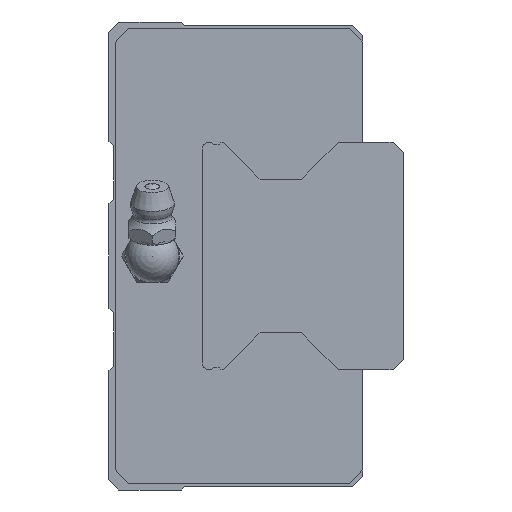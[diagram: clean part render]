
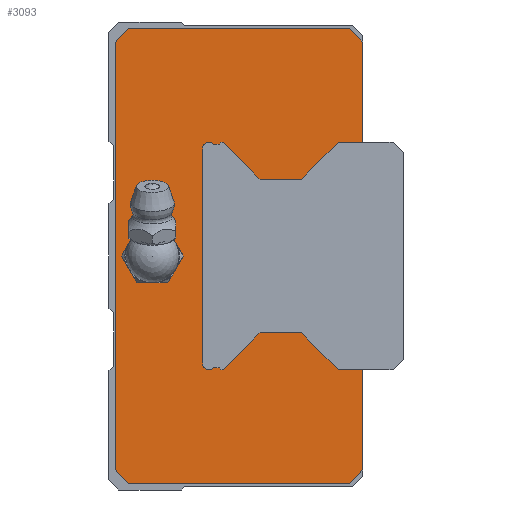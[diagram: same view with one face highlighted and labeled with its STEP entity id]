
A CAD part, left-side view. The second image highlights one B-rep face of the part: STEP entity #3093.
In plain terms, the highlighted planar face has unit normal (-1, 0, 0).
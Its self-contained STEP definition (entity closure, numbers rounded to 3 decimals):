
#167=CIRCLE('',#3355,3.);
#168=CIRCLE('',#3356,1.);
#169=CIRCLE('',#3357,1.);
#534=ORIENTED_EDGE('',*,*,#1246,.T.);
#535=ORIENTED_EDGE('',*,*,#1247,.T.);
#536=ORIENTED_EDGE('',*,*,#1239,.F.);
#537=ORIENTED_EDGE('',*,*,#1211,.F.);
#538=ORIENTED_EDGE('',*,*,#1207,.F.);
#539=ORIENTED_EDGE('',*,*,#1199,.F.);
#540=ORIENTED_EDGE('',*,*,#1231,.F.);
#541=ORIENTED_EDGE('',*,*,#1184,.F.);
#542=ORIENTED_EDGE('',*,*,#1222,.F.);
#543=ORIENTED_EDGE('',*,*,#1219,.F.);
#544=ORIENTED_EDGE('',*,*,#1241,.F.);
#545=ORIENTED_EDGE('',*,*,#1248,.T.);
#546=ORIENTED_EDGE('',*,*,#1249,.T.);
#547=ORIENTED_EDGE('',*,*,#1250,.T.);
#548=ORIENTED_EDGE('',*,*,#1251,.T.);
#549=ORIENTED_EDGE('',*,*,#1252,.T.);
#550=ORIENTED_EDGE('',*,*,#1253,.T.);
#551=ORIENTED_EDGE('',*,*,#1254,.T.);
#552=ORIENTED_EDGE('',*,*,#1255,.T.);
#553=ORIENTED_EDGE('',*,*,#1256,.T.);
#554=ORIENTED_EDGE('',*,*,#1257,.T.);
#555=ORIENTED_EDGE('',*,*,#1258,.T.);
#556=ORIENTED_EDGE('',*,*,#1259,.T.);
#557=ORIENTED_EDGE('',*,*,#1260,.T.);
#558=ORIENTED_EDGE('',*,*,#1261,.T.);
#559=ORIENTED_EDGE('',*,*,#1262,.T.);
#560=ORIENTED_EDGE('',*,*,#1263,.T.);
#1184=EDGE_CURVE('',#1570,#1571,#1869,.T.);
#1199=EDGE_CURVE('',#1585,#1586,#1884,.T.);
#1207=EDGE_CURVE('',#1586,#1592,#1891,.T.);
#1211=EDGE_CURVE('',#1592,#1594,#1895,.T.);
#1219=EDGE_CURVE('',#1601,#1602,#1903,.T.);
#1222=EDGE_CURVE('',#1602,#1570,#1906,.T.);
#1231=EDGE_CURVE('',#1571,#1585,#1914,.T.);
#1239=EDGE_CURVE('',#1594,#1605,#1922,.T.);
#1241=EDGE_CURVE('',#1608,#1601,#1924,.T.);
#1246=EDGE_CURVE('',#1612,#1612,#167,.T.);
#1247=EDGE_CURVE('',#1613,#1605,#1929,.T.);
#1248=EDGE_CURVE('',#1608,#1614,#1930,.T.);
#1249=EDGE_CURVE('',#1614,#1615,#1931,.T.);
#1250=EDGE_CURVE('',#1615,#1616,#1932,.T.);
#1251=EDGE_CURVE('',#1616,#1617,#1933,.T.);
#1252=EDGE_CURVE('',#1617,#1618,#1934,.T.);
#1253=EDGE_CURVE('',#1618,#1619,#1935,.T.);
#1254=EDGE_CURVE('',#1619,#1620,#1936,.T.);
#1255=EDGE_CURVE('',#1620,#1621,#168,.T.);
#1256=EDGE_CURVE('',#1621,#1622,#1937,.T.);
#1257=EDGE_CURVE('',#1622,#1623,#169,.T.);
#1258=EDGE_CURVE('',#1623,#1624,#1938,.T.);
#1259=EDGE_CURVE('',#1624,#1625,#1939,.T.);
#1260=EDGE_CURVE('',#1625,#1626,#1940,.T.);
#1261=EDGE_CURVE('',#1626,#1627,#1941,.T.);
#1262=EDGE_CURVE('',#1627,#1628,#1942,.T.);
#1263=EDGE_CURVE('',#1628,#1613,#1943,.T.);
#1570=VERTEX_POINT('',#4692);
#1571=VERTEX_POINT('',#4694);
#1585=VERTEX_POINT('',#4723);
#1586=VERTEX_POINT('',#4725);
#1592=VERTEX_POINT('',#4741);
#1594=VERTEX_POINT('',#4748);
#1601=VERTEX_POINT('',#4763);
#1602=VERTEX_POINT('',#4765);
#1605=VERTEX_POINT('',#4790);
#1608=VERTEX_POINT('',#4800);
#1612=VERTEX_POINT('',#4811);
#1613=VERTEX_POINT('',#4813);
#1614=VERTEX_POINT('',#4815);
#1615=VERTEX_POINT('',#4817);
#1616=VERTEX_POINT('',#4819);
#1617=VERTEX_POINT('',#4821);
#1618=VERTEX_POINT('',#4823);
#1619=VERTEX_POINT('',#4825);
#1620=VERTEX_POINT('',#4827);
#1621=VERTEX_POINT('',#4829);
#1622=VERTEX_POINT('',#4831);
#1623=VERTEX_POINT('',#4833);
#1624=VERTEX_POINT('',#4835);
#1625=VERTEX_POINT('',#4837);
#1626=VERTEX_POINT('',#4839);
#1627=VERTEX_POINT('',#4841);
#1628=VERTEX_POINT('',#4843);
#1869=LINE('',#4693,#2167);
#1884=LINE('',#4724,#2182);
#1891=LINE('',#4740,#2189);
#1895=LINE('',#4747,#2193);
#1903=LINE('',#4764,#2201);
#1906=LINE('',#4769,#2204);
#1914=LINE('',#4783,#2212);
#1922=LINE('',#4797,#2220);
#1924=LINE('',#4802,#2222);
#1929=LINE('',#4812,#2227);
#1930=LINE('',#4814,#2228);
#1931=LINE('',#4816,#2229);
#1932=LINE('',#4818,#2230);
#1933=LINE('',#4820,#2231);
#1934=LINE('',#4822,#2232);
#1935=LINE('',#4824,#2233);
#1936=LINE('',#4826,#2234);
#1937=LINE('',#4830,#2235);
#1938=LINE('',#4834,#2236);
#1939=LINE('',#4836,#2237);
#1940=LINE('',#4838,#2238);
#1941=LINE('',#4840,#2239);
#1942=LINE('',#4842,#2240);
#1943=LINE('',#4844,#2241);
#2167=VECTOR('',#3810,1000.);
#2182=VECTOR('',#3827,1000.);
#2189=VECTOR('',#3840,1000.);
#2193=VECTOR('',#3846,1000.);
#2201=VECTOR('',#3856,1000.);
#2204=VECTOR('',#3861,1000.);
#2212=VECTOR('',#3879,1000.);
#2220=VECTOR('',#3891,1000.);
#2222=VECTOR('',#3895,1000.);
#2227=VECTOR('',#3904,1000.);
#2228=VECTOR('',#3905,1000.);
#2229=VECTOR('',#3906,1000.);
#2230=VECTOR('',#3907,1000.);
#2231=VECTOR('',#3908,1000.);
#2232=VECTOR('',#3909,1000.);
#2233=VECTOR('',#3910,1000.);
#2234=VECTOR('',#3911,1000.);
#2235=VECTOR('',#3914,1000.);
#2236=VECTOR('',#3917,1000.);
#2237=VECTOR('',#3918,1000.);
#2238=VECTOR('',#3919,1000.);
#2239=VECTOR('',#3920,1000.);
#2240=VECTOR('',#3921,1000.);
#2241=VECTOR('',#3922,1000.);
#2469=EDGE_LOOP('',(#534));
#2470=EDGE_LOOP('',(#535,#536,#537,#538,#539,#540,#541,#542,#543,#544,#545,
#546,#547,#548,#549,#550,#551,#552,#553,#554,#555,#556,#557,#558,#559,#560));
#2734=FACE_BOUND('',#2469,.T.);
#2735=FACE_BOUND('',#2470,.T.);
#2952=PLANE('',#3354);
#3093=ADVANCED_FACE('',(#2734,#2735),#2952,.F.);
#3354=AXIS2_PLACEMENT_3D('',#4809,#3900,#3901);
#3355=AXIS2_PLACEMENT_3D('',#4810,#3902,#3903);
#3356=AXIS2_PLACEMENT_3D('',#4828,#3912,#3913);
#3357=AXIS2_PLACEMENT_3D('',#4832,#3915,#3916);
#3810=DIRECTION('',(0.,0.707,0.707));
#3827=DIRECTION('',(0.,-0.707,0.707));
#3840=DIRECTION('',(0.,-1.,0.));
#3846=DIRECTION('',(0.,-0.707,-0.707));
#3856=DIRECTION('',(0.,0.707,-0.707));
#3861=DIRECTION('',(0.,1.,0.));
#3879=DIRECTION('',(0.,0.,1.));
#3891=DIRECTION('',(0.,0.,-1.));
#3895=DIRECTION('',(0.,0.,-1.));
#3900=DIRECTION('',(1.,0.,0.));
#3901=DIRECTION('',(0.,0.,-1.));
#3902=DIRECTION('',(1.,0.,0.));
#3903=DIRECTION('',(0.,0.,-1.));
#3904=DIRECTION('',(0.,-1.,0.));
#3905=DIRECTION('',(0.,1.,0.));
#3906=DIRECTION('',(0.,0.707,0.707));
#3907=DIRECTION('',(0.,1.,0.));
#3908=DIRECTION('',(0.,0.707,-0.707));
#3909=DIRECTION('',(0.,1.,0.));
#3910=DIRECTION('',(0.,0.707,0.707));
#3911=DIRECTION('',(0.,1.,0.));
#3912=DIRECTION('',(1.,0.,0.));
#3913=DIRECTION('',(0.,0.,-1.));
#3914=DIRECTION('',(0.,0.,1.));
#3915=DIRECTION('',(1.,0.,0.));
#3916=DIRECTION('',(0.,0.,-1.));
#3917=DIRECTION('',(0.,-1.,0.));
#3918=DIRECTION('',(0.,-0.707,0.707));
#3919=DIRECTION('',(0.,-1.,0.));
#3920=DIRECTION('',(0.,-0.707,-0.707));
#3921=DIRECTION('',(0.,-1.,0.));
#3922=DIRECTION('',(0.,-0.707,0.707));
#4692=CARTESIAN_POINT('',(-62.5,35.,-34.));
#4693=CARTESIAN_POINT('',(-62.5,35.,-34.));
#4694=CARTESIAN_POINT('',(-62.5,37.,-32.));
#4723=CARTESIAN_POINT('',(-62.5,37.,32.));
#4724=CARTESIAN_POINT('',(-62.5,37.,32.));
#4725=CARTESIAN_POINT('',(-62.5,35.,34.));
#4740=CARTESIAN_POINT('',(-62.5,35.,34.));
#4741=CARTESIAN_POINT('',(-62.5,2.,34.));
#4747=CARTESIAN_POINT('',(-62.5,2.,34.));
#4748=CARTESIAN_POINT('',(-62.5,0.,32.));
#4763=CARTESIAN_POINT('',(-62.5,0.,-32.));
#4764=CARTESIAN_POINT('',(-62.5,0.,-32.));
#4765=CARTESIAN_POINT('',(-62.5,2.,-34.));
#4769=CARTESIAN_POINT('',(-62.5,2.,-34.));
#4783=CARTESIAN_POINT('',(-62.5,37.,-32.));
#4790=CARTESIAN_POINT('',(-62.5,0.,17.));
#4797=CARTESIAN_POINT('',(-62.5,0.,32.));
#4800=CARTESIAN_POINT('',(-62.5,0.,-17.));
#4802=CARTESIAN_POINT('',(-62.5,0.,32.));
#4809=CARTESIAN_POINT('',(-62.5,0.,0.));
#4810=CARTESIAN_POINT('',(-62.5,31.5,0.));
#4811=CARTESIAN_POINT('',(-62.5,31.5,-3.));
#4812=CARTESIAN_POINT('',(-62.5,3.7,17.));
#4813=CARTESIAN_POINT('',(-62.5,3.7,17.));
#4814=CARTESIAN_POINT('',(-62.5,-4.5,-17.));
#4815=CARTESIAN_POINT('',(-62.5,3.7,-17.));
#4816=CARTESIAN_POINT('',(-62.5,3.7,-17.));
#4817=CARTESIAN_POINT('',(-62.5,9.2,-11.5));
#4818=CARTESIAN_POINT('',(-62.5,9.2,-11.5));
#4819=CARTESIAN_POINT('',(-62.5,15.4,-11.5));
#4820=CARTESIAN_POINT('',(-62.5,15.4,-11.5));
#4821=CARTESIAN_POINT('',(-62.5,20.9,-17.));
#4822=CARTESIAN_POINT('',(-62.5,20.9,-17.));
#4823=CARTESIAN_POINT('',(-62.5,21.25,-17.));
#4824=CARTESIAN_POINT('',(-62.5,21.25,-17.));
#4825=CARTESIAN_POINT('',(-62.5,21.5,-16.75));
#4826=CARTESIAN_POINT('',(-62.5,21.5,-16.75));
#4827=CARTESIAN_POINT('',(-62.5,22.339,-16.75));
#4828=CARTESIAN_POINT('',(-62.5,23.,-16.));
#4829=CARTESIAN_POINT('',(-62.5,24.,-16.));
#4830=CARTESIAN_POINT('',(-62.5,24.,-16.));
#4831=CARTESIAN_POINT('',(-62.5,24.,16.));
#4832=CARTESIAN_POINT('',(-62.5,23.,16.));
#4833=CARTESIAN_POINT('',(-62.5,22.339,16.75));
#4834=CARTESIAN_POINT('',(-62.5,22.339,16.75));
#4835=CARTESIAN_POINT('',(-62.5,21.5,16.75));
#4836=CARTESIAN_POINT('',(-62.5,21.5,16.75));
#4837=CARTESIAN_POINT('',(-62.5,21.25,17.));
#4838=CARTESIAN_POINT('',(-62.5,21.25,17.));
#4839=CARTESIAN_POINT('',(-62.5,20.9,17.));
#4840=CARTESIAN_POINT('',(-62.5,20.9,17.));
#4841=CARTESIAN_POINT('',(-62.5,15.4,11.5));
#4842=CARTESIAN_POINT('',(-62.5,15.4,11.5));
#4843=CARTESIAN_POINT('',(-62.5,9.2,11.5));
#4844=CARTESIAN_POINT('',(-62.5,9.2,11.5));
